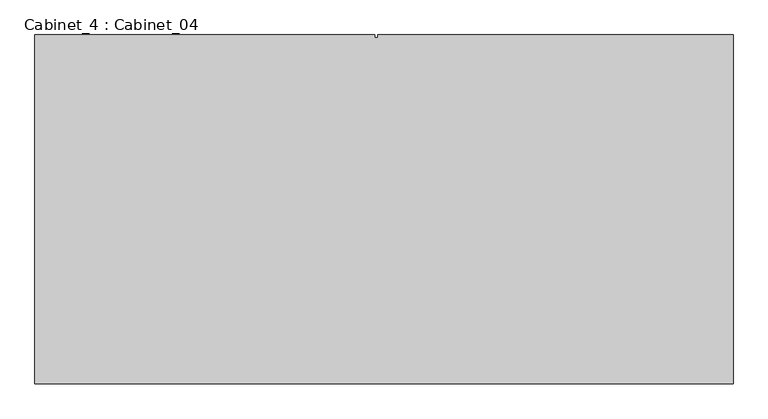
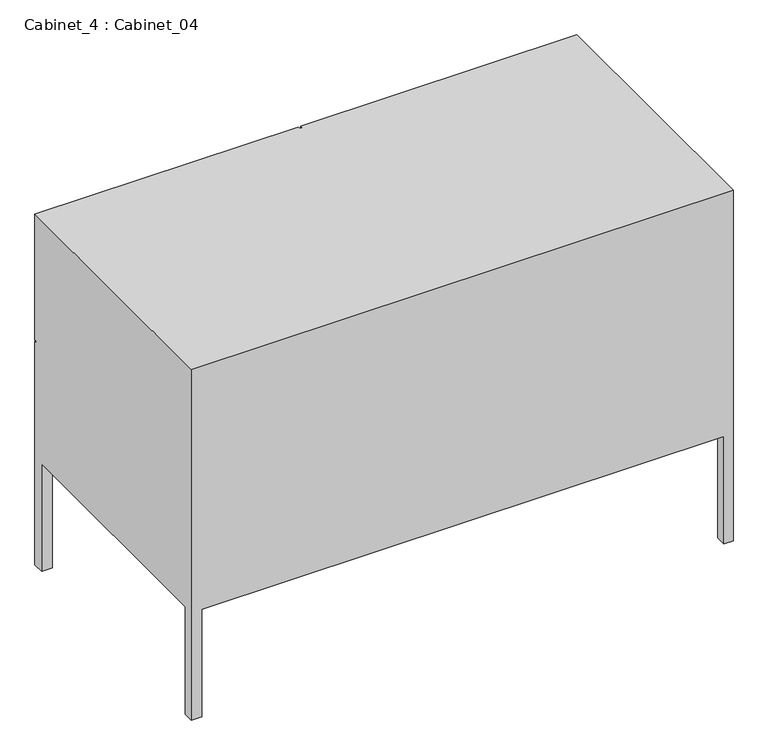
"""IFC4 building model written with IfcOpenShell, lengths in millimetres: furniture geometry, Cabinet_4 : Cabinet_04."""

from ifc_helpers import new_model, si_unit, origin, place, context, project, spatial, faceted_brep, source, transform, mapped, element, save


def cabinet_4_cabinet_04_f39191a7(model_context):
    return source(origin(), model_context, "Body", "Brep", [
        faceted_brep([(-3646.2497982, 18823.0724604, 8874.1759462), (-3646.2497982, 18243.0724604, 8874.1759462), (-2486.2497982, 18243.0724604, 8874.1759462), (-2486.2497982, 18823.0724604, 8874.1759462), (-3076.9326428, 18823.0724604, 8874.1759462), (-3076.9326428, 18818.0724604, 8874.1759462), (-3081.9326428, 18818.0724604, 8874.1759462), (-3081.9326428, 18823.0724604, 8874.1759462), (-3623.8146656, 18243.0724604, 8080.0), (-3646.2497982, 18243.0724604, 8080.0), (-3646.2497982, 18265.5724604, 8080.0), (-3623.8146656, 18265.5724604, 8080.0), (-2486.2497982, 18243.0724604, 8080.0), (-2506.100173, 18243.0724604, 8080.0), (-2506.100173, 18265.5724604, 8080.0), (-2486.2497982, 18265.5724604, 8080.0), (-3646.2497982, 18823.0724604, 8080.0), (-3623.8146656, 18823.0724604, 8080.0), (-3623.8146656, 18798.0724604, 8080.0), (-3646.2497982, 18798.0724604, 8080.0), (-2506.100173, 18823.0724604, 8080.0), (-2486.2497982, 18823.0724604, 8080.0), (-2486.2497982, 18798.0724604, 8080.0), (-2506.100173, 18798.0724604, 8080.0), (-3646.2497982, 18823.0724604, 8585.3053032), (-3081.9326428, 18823.0724604, 8585.3053032), (-3081.9326428, 18823.0724604, 8323.270046), (-3623.8146656, 18823.0724604, 8323.270046), (-2506.100173, 18823.0724604, 8323.270046), (-3076.9326428, 18823.0724604, 8323.270046), (-3076.9326428, 18823.0724604, 8585.3053032), (-2486.2497982, 18823.0724604, 8585.3053032), (-2486.2497982, 18823.0724604, 8589.6269033), (-3076.9326428, 18823.0724604, 8589.6269033), (-3081.9326428, 18823.0724604, 8589.6269033), (-3646.2497982, 18823.0724604, 8589.6269033), (-3646.2497982, 18818.0724604, 8589.6269033), (-3646.2497982, 18818.0724604, 8585.3053032), (-3646.2497982, 18798.0724604, 8323.270046), (-3646.2497982, 18265.5724604, 8323.270046), (-3623.8146656, 18243.0724604, 8323.270046), (-2506.100173, 18243.0724604, 8323.270046), (-2486.2497982, 18265.5724604, 8323.270046), (-2486.2497982, 18798.0724604, 8323.270046), (-2486.2497982, 18818.0724604, 8585.3053032), (-2486.2497982, 18818.0724604, 8589.6269033), (-3623.8146656, 18265.5724604, 8323.270046), (-3623.8146656, 18798.0724604, 8323.270046), (-3081.9326428, 18818.0724604, 8323.270046), (-3076.9326428, 18818.0724604, 8323.270046), (-2506.100173, 18798.0724604, 8323.270046), (-2506.100173, 18265.5724604, 8323.270046), (-3081.9326428, 18818.0724604, 8589.6269033), (-3081.9326428, 18818.0724604, 8585.3053032), (-3076.9326428, 18818.0724604, 8589.6269033), (-3076.9326428, 18818.0724604, 8585.3053032)], [[[0, 1, 2, 3, 4, 5, 6, 7]], [[8, 9, 10, 11]], [[12, 13, 14, 15]], [[16, 17, 18, 19]], [[20, 21, 22, 23]], [[17, 16, 24, 25, 26, 27]], [[21, 20, 28, 29, 30, 31]], [[4, 3, 32, 33]], [[0, 7, 34, 35]], [[1, 0, 35, 36, 37, 24, 16, 19, 38, 39, 10, 9]], [[2, 1, 9, 8, 40, 41, 13, 12]], [[3, 2, 12, 15, 42, 43, 22, 21, 31, 44, 45, 32]], [[41, 40, 46, 39, 38, 47, 27, 26, 48, 49, 29, 28, 50, 43, 42, 51]], [[17, 27, 47, 18]], [[40, 8, 11, 46]], [[28, 20, 23, 50]], [[13, 41, 51, 14]], [[43, 50, 23, 22]], [[47, 38, 19, 18]], [[51, 42, 15, 14]], [[39, 46, 11, 10]], [[7, 6, 52, 34]], [[48, 26, 25, 53]], [[6, 5, 54, 45, 44, 55, 49, 48, 53, 37, 36, 52]], [[5, 4, 33, 54]], [[29, 49, 55, 30]], [[45, 54, 33, 32]], [[52, 36, 35, 34]], [[55, 44, 31, 30]], [[37, 53, 25, 24]]]),
    ])


if __name__ == "__main__":
    model = new_model("IFC4")
    model_context = context("Model", 3, world=origin())
    ifc_project = project(units=[si_unit("LENGTHUNIT", "METRE", prefix="MILLI")], contexts=[model_context])
    site = spatial("IfcSite", under=ifc_project)
    building = spatial("IfcBuilding", under=site)
    placement = place(None, origin())
    cabinet_4_cabinet_04_shape = cabinet_4_cabinet_04_f39191a7(model_context)
    element("IfcFurniture", 1, ObjectType="Cabinet_4 : Cabinet_04", at=placement, inside=building, context=model_context, shape_type="MappedRepresentation", body=[
        mapped(cabinet_4_cabinet_04_shape, transform((0.0, 0.0, 0.0), x_axis=(1.0, 0.0, 0.0), y_axis=(0.0, 1.0, 0.0), z_axis=(0.0, 0.0, 1.0))),
    ])
    save(model, "model.ifc")
